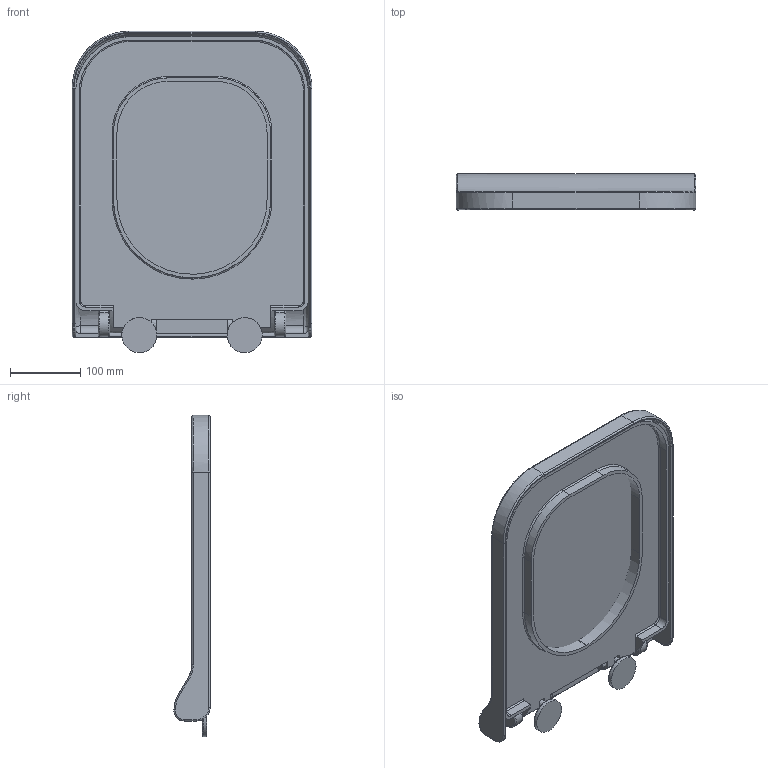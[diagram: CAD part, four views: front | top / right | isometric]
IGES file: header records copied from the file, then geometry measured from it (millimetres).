
Global section: file name: 5888cb67-4cc4-41b0-8de5-dc90724deac0.zip; native system: unknown; preprocessor: unknown; author: unknown; organization: unknown; date: 20200702.111734; units: millimetre
Bounding box: 342 x 51.7 x 458.32 mm (x, y, z)
Volume: 1577778.4 mm3; surface area: 613591 mm2
Topology: 4 solids, 4 shells, 192 faces, 478 edges, 297 vertices
Faces by surface type: bspline 192
